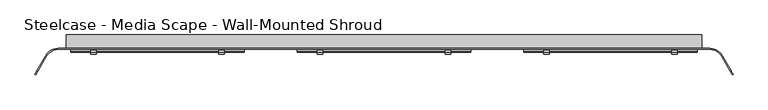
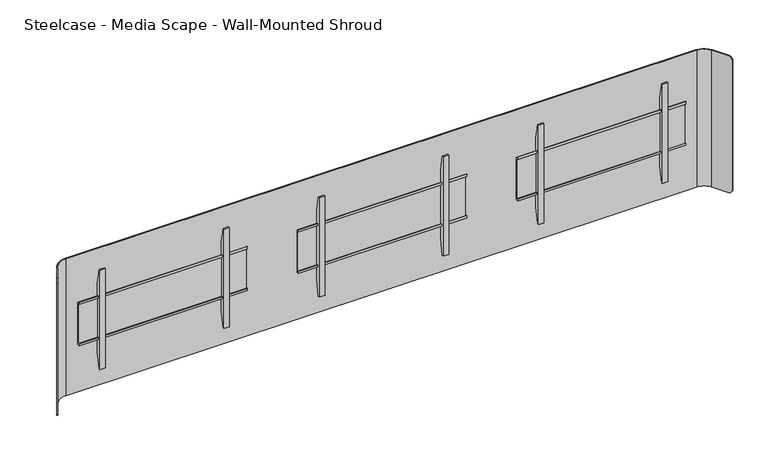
"""IFC4 building model written with IfcOpenShell, lengths in millimetres: furniture geometry, Steelcase - Media Scape - Wall-Mounted Shroud : Triple - 42in with CODEC Case."""

from ifc_helpers import new_model, si_unit, frame, origin, place, context, project, spatial, polyline, circle_curve, outline, extrude, source, transform, mapped, element, save
from ifc_brep_helpers import plane_surface, cylinder_surface, revolved_surface, advanced_brep


def steelcase_media_scape_wall_mounted_shroud_eeef9ecd(model_context):
    return source(origin(), model_context, "Body", "SolidModel", [
        extrude(outline(polyline([(1458.214, 1487.0747345), (1458.214, -1487.0747345), (912.1648167, -1487.0747345), (912.1648167, 1487.0747345), (1458.214, 1487.0747345)]), holes=[polyline([(1456.7407333, -1485.5506996), (1456.7407333, -1425.0988663), (1394.7139516, -1425.0988663), (1394.7139516, 1423.5113663), (1456.7407333, 1423.5113663), (1456.7407333, 1485.5506996), (913.6887789, 1485.5506996), (913.6887789, 1423.5113663), (935.9772924, 1423.5113663), (935.9772924, -1425.0988663), (913.6887789, -1425.0988663), (913.6887789, -1485.5506996), (1456.7407333, -1485.5506996)])]), frame((0.0, -25.4, 0.0), z_axis=(0.0, 1.0, 0.0), x_axis=(0.0, 0.0, 1.0)), (0.0, 0.0, 1.0), 63.5005882),
        extrude(outline(polyline([(-42.4942785, 1288.4504726), (-42.4942785, 1300.4645649), (-39.8272175, 1300.4645649), (-39.8272175, 1291.117461), (-29.9720009, 1291.117461), (-29.9720009, 1076.7922438), (-42.3164551, 1076.7922438), (-42.3164551, 1087.7142515), (-39.649394, 1087.7142515), (-39.649394, 1079.457052), (-32.6531824, 1079.457052), (-32.6531824, 1288.4504726), (-42.4942785, 1288.4504726)])), frame((653.415, 0.0, 0.0), z_axis=(1.0, 0.0, 0.0), x_axis=(0.0, 1.0, 0.0)), (0.0, 0.0, 1.0), 812.8),
        extrude(outline(polyline([(-32.6531824, 1359.3971148), (-32.6531824, 1007.5825607), (-46.5049349, 929.9546949), (-53.3399828, 929.9546949), (-53.3399828, 1437.9547192), (-46.5050076, 1437.9547192), (-32.6531824, 1359.3971148)])), frame((747.016426, 0.0, 0.0), z_axis=(1.0, 0.0, 0.0), x_axis=(0.0, 1.0, 0.0)), (0.0, 0.0, 1.0), 26.1592872),
        extrude(outline(polyline([(-32.6531824, 1359.3971148), (-32.6531824, 1007.5825607), (-46.5049349, 929.9546949), (-53.3399828, 929.9546949), (-53.3399828, 1437.9547192), (-46.5050076, 1437.9547192), (-32.6531824, 1359.3971148)])), frame((1346.4542868, 0.0, 0.0), z_axis=(1.0, 0.0, 0.0), x_axis=(0.0, 1.0, 0.0)), (0.0, 0.0, 1.0), 26.1592872),
        extrude(outline(polyline([(-42.4942785, 1288.4504726), (-42.4942785, 1300.4645649), (-39.8272175, 1300.4645649), (-39.8272175, 1291.117461), (-29.9720009, 1291.117461), (-29.9720009, 1076.7922438), (-42.3164551, 1076.7922438), (-42.3164551, 1087.7142515), (-39.649394, 1087.7142515), (-39.649394, 1079.457052), (-32.6531824, 1079.457052), (-32.6531824, 1288.4504726), (-42.4942785, 1288.4504726)])), frame((-1466.215, 0.0, 0.0), z_axis=(1.0, 0.0, 0.0), x_axis=(0.0, 1.0, 0.0)), (0.0, 0.0, 1.0), 812.8),
        extrude(outline(polyline([(-32.6531824, 1359.3971148), (-32.6531824, 1007.5825607), (-46.5049349, 929.9546949), (-53.3399828, 929.9546949), (-53.3399828, 1437.9547192), (-46.5050076, 1437.9547192), (-32.6531824, 1359.3971148)])), frame((-773.1757132, 0.0, 0.0), z_axis=(1.0, 0.0, 0.0), x_axis=(0.0, 1.0, 0.0)), (0.0, 0.0, 1.0), 26.1592872),
        extrude(outline(polyline([(-32.6531824, 1359.3971148), (-32.6531824, 1007.5825607), (-46.5049349, 929.9546949), (-53.3399828, 929.9546949), (-53.3399828, 1437.9547192), (-46.5050076, 1437.9547192), (-32.6531824, 1359.3971148)])), frame((-1372.613574, 0.0, 0.0), z_axis=(1.0, 0.0, 0.0), x_axis=(0.0, 1.0, 0.0)), (0.0, 0.0, 1.0), 26.1592872),
        extrude(outline(polyline([(-42.4942785, 1288.4504726), (-42.4942785, 1300.4645649), (-39.8272175, 1300.4645649), (-39.8272175, 1291.117461), (-29.9720009, 1291.117461), (-29.9720009, 1076.7922438), (-42.3164551, 1076.7922438), (-42.3164551, 1087.7142515), (-39.649394, 1087.7142515), (-39.649394, 1079.457052), (-32.6531824, 1079.457052), (-32.6531824, 1288.4504726), (-42.4942785, 1288.4504726)])), frame((-406.4, 0.0, 0.0), z_axis=(1.0, 0.0, 0.0), x_axis=(0.0, 1.0, 0.0)), (0.0, 0.0, 1.0), 812.8),
        extrude(outline(polyline([(-32.6531824, 1359.3971148), (-32.6531824, 1007.5825607), (-46.5049349, 929.9546949), (-53.3399828, 929.9546949), (-53.3399828, 1437.9547192), (-46.5050076, 1437.9547192), (-32.6531824, 1359.3971148)])), frame((286.6392868, 0.0, 0.0), z_axis=(1.0, 0.0, 0.0), x_axis=(0.0, 1.0, 0.0)), (0.0, 0.0, 1.0), 26.1592872),
        extrude(outline(polyline([(-32.6531824, 1359.3971148), (-32.6531824, 1007.5825607), (-46.5049349, 929.9546949), (-53.3399828, 929.9546949), (-53.3399828, 1437.9547192), (-46.5050076, 1437.9547192), (-32.6531824, 1359.3971148)])), frame((-312.798574, 0.0, 0.0), z_axis=(1.0, 0.0, 0.0), x_axis=(0.0, 1.0, 0.0)), (0.0, 0.0, 1.0), 26.1592872),
        advanced_brep(
        [(-1580.0086135, -61.722, 1534.414), (-1525.016002, -29.9720009, 1534.414), (1525.016, -29.9720009, 1534.414), (1580.0086135, -61.722, 1534.414), (1620.129586, -131.2135628, 1534.414), (1624.0890541, -128.9275628, 1534.414), (1583.9680817, -59.436, 1534.414), (1525.016002, -25.4, 1534.414), (-1525.016, -25.4, 1534.414), (-1583.9680817, -59.436, 1534.414), (-1624.0921659, -128.9329524, 1534.414), (-1620.1326977, -131.2189524, 1534.414), (-1583.9680817, -59.436, 835.914), (-1525.016002, -25.4, 835.914), (1525.016, -25.4, 835.914), (1583.9680817, -59.436, 835.914), (1624.1406629, -129.0169518, 835.914), (1620.1811948, -131.3029518, 835.914), (1580.0086135, -61.722, 835.914), (1525.016002, -29.9720009, 835.914), (-1525.016, -29.9720009, 835.914), (-1580.0086135, -61.722, 835.914), (-1620.1954014, -131.3275584, 835.914), (-1624.1548695, -129.0415584, 835.914), (-1633.6590632, -145.5033047, 849.5242766), (-1633.6590632, -145.5033047, 1520.4227735), (-1629.6995951, -147.7893047, 1520.4227735), (-1629.6995951, -147.7893047, 849.5242766), (1629.6770866, -147.7503189, 849.4756893), (1629.6770866, -147.7503189, 1520.5433849), (1633.6365547, -145.4643189, 1520.5433849), (1633.6365547, -145.4643189, 849.4756893)],
        [
            (0, 1, circle_curve(frame((-1525.016002, -93.4719991, 1534.414), z_axis=(0.0, 0.0, -1.0), x_axis=(0.0, 1.0, 0.0)), 63.4999981)),
            (1, 2),
            (2, 3, circle_curve(frame((1525.016002, -93.4719991, 1534.414), z_axis=(0.0, 0.0, -1.0), x_axis=(0.0, 1.0, 0.0)), 63.4999981)),
            (3, 4),
            (4, 5),
            (5, 6),
            (6, 7, circle_curve(frame((1525.0160004, -93.472, 1534.414), z_axis=(0.0, 0.0, 1.0), x_axis=(0.0, 1.0, 0.0)), 68.072)),
            (7, 8),
            (8, 9, circle_curve(frame((-1525.0160004, -93.472, 1534.414), z_axis=(0.0, 0.0, 1.0), x_axis=(0.0, 1.0, 0.0)), 68.072)),
            (9, 10),
            (10, 11),
            (11, 0),
            (12, 13, circle_curve(frame((-1525.0160004, -93.472, 835.914), z_axis=(0.0, 0.0, -1.0), x_axis=(0.0, 1.0, 0.0)), 68.072)),
            (13, 14),
            (14, 15, circle_curve(frame((1525.0160004, -93.472, 835.914), z_axis=(0.0, 0.0, -1.0), x_axis=(0.0, 1.0, 0.0)), 68.072)),
            (15, 16),
            (16, 17),
            (17, 18),
            (18, 19, circle_curve(frame((1525.016002, -93.4719991, 835.914), z_axis=(0.0, 0.0, 1.0), x_axis=(0.0, 1.0, 0.0)), 63.4999981)),
            (19, 20),
            (20, 21, circle_curve(frame((-1525.016002, -93.4719991, 835.914), z_axis=(0.0, 0.0, 1.0), x_axis=(0.0, 1.0, 0.0)), 63.4999981)),
            (21, 22),
            (22, 23),
            (23, 12),
            (0, 21),
            (20, 1),
            (8, 13),
            (12, 9),
            (23, 24, circle_curve(frame((-1624.1548695, -129.0415584, 855.9928872), z_axis=(-0.8660254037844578, 0.49999999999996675, 0.0), x_axis=(-0.49999999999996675, -0.8660254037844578, 0.0)), 20.0788872)),
            (24, 25),
            (25, 10, circle_curve(frame((-1624.0921659, -128.9329524, 1514.3351128), z_axis=(-0.866025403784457, 0.49999999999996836, 0.0), x_axis=(-0.49999999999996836, -0.866025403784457, 0.0)), 20.0788872)),
            (26, 25),
            (24, 27),
            (27, 26),
            (11, 26, circle_curve(frame((-1620.1326977, -131.2189524, 1514.3351128), z_axis=(0.866025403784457, -0.49999999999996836, 0.0), x_axis=(-0.49999999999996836, -0.866025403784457, 0.0)), 20.0788872)),
            (27, 22, circle_curve(frame((-1620.1954014, -131.3275584, 855.9928872), z_axis=(0.8660254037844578, -0.49999999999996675, 0.0), x_axis=(-0.49999999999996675, -0.8660254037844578, 0.0)), 20.0788872)),
            (7, 14),
            (19, 2),
            (3, 18),
            (17, 28, circle_curve(frame((1620.1811948, -131.3029518, 855.9928872), z_axis=(-0.8660254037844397, -0.49999999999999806, 0.0), x_axis=(0.49999999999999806, -0.8660254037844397, 0.0)), 20.0788872)),
            (28, 29),
            (29, 4, circle_curve(frame((1620.129586, -131.2135628, 1514.3351128), z_axis=(-0.8660254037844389, -0.49999999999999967, 0.0), x_axis=(0.49999999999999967, -0.8660254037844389, 0.0)), 20.0788872)),
            (30, 29),
            (28, 31),
            (31, 30),
            (15, 6),
            (5, 30, circle_curve(frame((1624.0890541, -128.9275628, 1514.3351128), z_axis=(0.8660254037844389, 0.49999999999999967, 0.0), x_axis=(0.49999999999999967, -0.8660254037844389, 0.0)), 20.0788872)),
            (31, 16, circle_curve(frame((1624.1406629, -129.0169518, 855.9928872), z_axis=(0.8660254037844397, 0.49999999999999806, 0.0), x_axis=(0.49999999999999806, -0.8660254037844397, 0.0)), 20.0788872)),
        ],
        [
            plane_surface(frame((-1525.016002, -29.9720009, 1534.414), z_axis=(0.0, 0.0, 1.0), x_axis=(1.0, 0.0, 0.0))),
            plane_surface(frame((-1525.016002, -29.9720009, 835.914), z_axis=(0.0, 0.0, -1.0), x_axis=(-1.0, 0.0, 0.0))),
            revolved_surface(polyline([(-1525.016002, -29.972001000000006, 835.914), (-1525.016002, -29.972001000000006, 1534.414)]), (-1525.016002, -93.4719991, 835.914), (0.0, 0.0, -1.0)),
            cylinder_surface(frame((-1525.0160004, -93.472, 835.914), z_axis=(0.0, 0.0, 1.0), x_axis=(0.0, 1.0, 0.0)), 68.072),
            plane_surface(frame((-1583.9680817, -59.436, 1534.414), z_axis=(-0.866025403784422, 0.5000000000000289, 0.0), x_axis=(0.0, 0.0, -1.0))),
            plane_surface(frame((-1633.6590632, -145.5033047, 1534.414), z_axis=(-0.5000000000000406, -0.8660254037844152, 0.0), x_axis=(0.0, 0.0, -1.0))),
            plane_surface(frame((-1629.6995951, -147.7893047, 1534.414), z_axis=(0.8660254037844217, -0.5000000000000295, 0.0), x_axis=(0.0, 0.0, -1.0))),
            plane_surface(frame((1525.016, -25.4, 1534.414), z_axis=(0.0, 1.0, 0.0), x_axis=(0.0, 0.0, -1.0))),
            plane_surface(frame((-1525.016, -29.9720009, 1534.414), z_axis=(0.0, -1.0, 0.0), x_axis=(0.0, 0.0, -1.0))),
            plane_surface(frame((1580.0086135, -61.722, 1534.414), z_axis=(-0.8660254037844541, -0.4999999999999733, 0.0), x_axis=(0.0, 0.0, -1.0))),
            plane_surface(frame((1629.6770866, -147.7503189, 1534.414), z_axis=(0.4999999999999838, -0.866025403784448, 0.0), x_axis=(0.0, 0.0, -1.0))),
            plane_surface(frame((1633.6365547, -145.4643189, 1534.414), z_axis=(0.8660254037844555, 0.49999999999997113, 0.0), x_axis=(0.0, 0.0, -1.0))),
            cylinder_surface(frame((1525.0160004, -93.472, 835.914), z_axis=(0.0, 0.0, 1.0), x_axis=(0.0, 1.0, 0.0)), 68.072),
            revolved_surface(polyline([(1525.016002, -29.972001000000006, 835.914), (1525.016002, -29.972001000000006, 1534.414)]), (1525.016002, -93.4719991, 835.914), (0.0, 0.0, -1.0)),
            cylinder_surface(frame((-1620.1326977, -131.2189524, 1514.3351128), z_axis=(0.866025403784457, -0.49999999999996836, 0.0), x_axis=(-0.49999999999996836, -0.866025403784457, 0.0)), 20.0788872),
            cylinder_surface(frame((-1620.1954014, -131.3275584, 855.9928872), z_axis=(0.8660254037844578, -0.49999999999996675, 0.0), x_axis=(-0.49999999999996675, -0.8660254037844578, 0.0)), 20.0788872),
            cylinder_surface(frame((1635.2364297, -122.4916225, 1514.3351128), z_axis=(0.8660254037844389, 0.49999999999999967, 0.0), x_axis=(0.49999999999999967, -0.8660254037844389, 0.0)), 20.0788872),
            cylinder_surface(frame((1632.4289695, -124.2316958, 855.9928872), z_axis=(0.8660254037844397, 0.49999999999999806, 0.0), x_axis=(0.49999999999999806, -0.8660254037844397, 0.0)), 20.0788872),
        ],
        [
            (0, [[1, 2, 3, 4, 5, 6, 7, 8, 9, 10, 11, 12]]),
            (1, [[13, 14, 15, 16, 17, 18, 19, 20, 21, 22, 23, 24]]),
            (2, [[-1, 25, -21, 26]]),
            (3, [[-9, 27, -13, 28]]),
            (4, [[-28, -24, 29, 30, 31, -10]]),
            (5, [[32, -30, 33, 34]]),
            (6, [[-25, -12, 35, -34, 36, -22]]),
            (7, [[-8, 37, -14, -27]]),
            (8, [[-2, -26, -20, 38]]),
            (9, [[39, -18, 40, 41, 42, -4]]),
            (10, [[43, -41, 44, 45]]),
            (11, [[46, -6, 47, -45, 48, -16]]),
            (12, [[-7, -46, -15, -37]]),
            (13, [[-3, -38, -19, -39]]),
            (14, [[-11, -31, -32, -35]]),
            (15, [[-23, -36, -33, -29]]),
            (16, [[-5, -42, -43, -47]]),
            (17, [[-17, -48, -44, -40]]),
        ],
    ),
    ])


if __name__ == "__main__":
    model = new_model("IFC4")
    model_context = context("Model", 3, world=origin())
    ifc_project = project(units=[si_unit("LENGTHUNIT", "METRE", prefix="MILLI")], contexts=[model_context])
    site = spatial("IfcSite", under=ifc_project)
    building = spatial("IfcBuilding", under=site)
    placement = place(None, origin())
    steelcase_media_scape_wall_mounted_shroud_shape = steelcase_media_scape_wall_mounted_shroud_eeef9ecd(model_context)
    element("IfcFurniture", 1, ObjectType="Steelcase - Media Scape - Wall-Mounted Shroud : Triple - 42in with CODEC Case", at=placement, inside=building, context=model_context, shape_type="MappedRepresentation", body=[
        mapped(steelcase_media_scape_wall_mounted_shroud_shape, transform((0.0, 0.0, 0.0), x_axis=(1.0, 0.0, 0.0), y_axis=(0.0, 1.0, 0.0), z_axis=(0.0, 0.0, 1.0))),
    ])
    save(model, "model.ifc")
